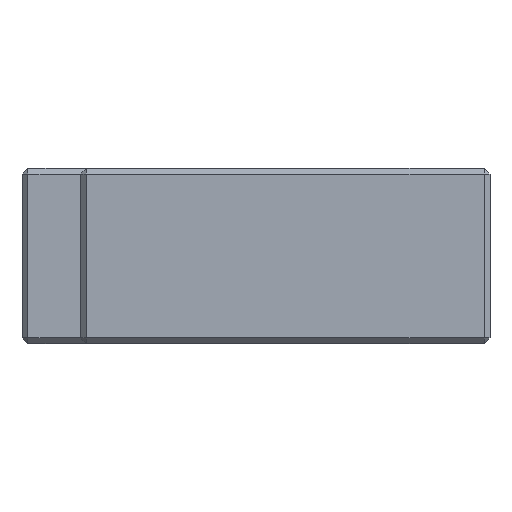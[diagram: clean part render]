
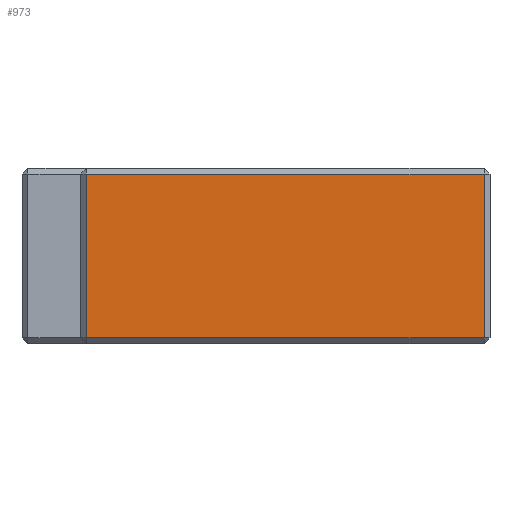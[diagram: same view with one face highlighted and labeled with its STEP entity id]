
A CAD part, left-side view. The second image highlights one B-rep face of the part: STEP entity #973.
In plain terms, the highlighted planar face has unit normal (-1, 0, 0).
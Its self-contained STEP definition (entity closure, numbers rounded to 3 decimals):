
#484 = VERTEX_POINT ( 'NONE', #2898 ) ;
#565 = LINE ( 'NONE', #931, #2678 ) ;
#574 = ORIENTED_EDGE ( 'NONE', *, *, #2172, .T. ) ;
#931 = CARTESIAN_POINT ( 'NONE',  ( -53., 70., -14. ) ) ;
#973 = ADVANCED_FACE ( 'NONE', ( #3635 ), #4647, .F. ) ;
#997 = VECTOR ( 'NONE', #3102, 1000. ) ;
#1090 = DIRECTION ( 'NONE',  ( 0., -1., 0. ) ) ;
#1488 = EDGE_CURVE ( 'NONE', #3256, #2776, #4812, .T. ) ;
#1550 = VECTOR ( 'NONE', #2869, 1000. ) ;
#1640 = CARTESIAN_POINT ( 'NONE',  ( -53., 69., 14. ) ) ;
#1742 = DIRECTION ( 'NONE',  ( 0., 0., -1. ) ) ;
#1813 = CARTESIAN_POINT ( 'NONE',  ( -53., 69., 15. ) ) ;
#1973 = LINE ( 'NONE', #2880, #1550 ) ;
#2063 = LINE ( 'NONE', #1813, #4695 ) ;
#2172 = EDGE_CURVE ( 'NONE', #484, #3256, #565, .T. ) ;
#2194 = EDGE_LOOP ( 'NONE', ( #574, #2796, #3726, #4606 ) ) ;
#2678 = VECTOR ( 'NONE', #1090, 1000. ) ;
#2753 = CARTESIAN_POINT ( 'NONE',  ( -53., 1., 14. ) ) ;
#2776 = VERTEX_POINT ( 'NONE', #2753 ) ;
#2796 = ORIENTED_EDGE ( 'NONE', *, *, #1488, .T. ) ;
#2869 = DIRECTION ( 'NONE',  ( 0., 1., 0. ) ) ;
#2880 = CARTESIAN_POINT ( 'NONE',  ( -53., 70., 14. ) ) ;
#2898 = CARTESIAN_POINT ( 'NONE',  ( -53., 69., -14. ) ) ;
#2919 = EDGE_CURVE ( 'NONE', #2931, #484, #2063, .T. ) ;
#2931 = VERTEX_POINT ( 'NONE', #1640 ) ;
#3097 = CARTESIAN_POINT ( 'NONE',  ( -53., 1., 15. ) ) ;
#3102 = DIRECTION ( 'NONE',  ( 0., 0., 1. ) ) ;
#3256 = VERTEX_POINT ( 'NONE', #4452 ) ;
#3635 = FACE_OUTER_BOUND ( 'NONE', #2194, .T. ) ;
#3726 = ORIENTED_EDGE ( 'NONE', *, *, #3978, .T. ) ;
#3787 = AXIS2_PLACEMENT_3D ( 'NONE', #4637, #4690, #4705 ) ;
#3978 = EDGE_CURVE ( 'NONE', #2776, #2931, #1973, .T. ) ;
#4452 = CARTESIAN_POINT ( 'NONE',  ( -53., 1., -14. ) ) ;
#4606 = ORIENTED_EDGE ( 'NONE', *, *, #2919, .T. ) ;
#4637 = CARTESIAN_POINT ( 'NONE',  ( -53., 70., 15. ) ) ;
#4647 = PLANE ( 'NONE',  #3787 ) ;
#4690 = DIRECTION ( 'NONE',  ( 1., 0., 0. ) ) ;
#4695 = VECTOR ( 'NONE', #1742, 1000. ) ;
#4705 = DIRECTION ( 'NONE',  ( 0., 1., 0. ) ) ;
#4812 = LINE ( 'NONE', #3097, #997 ) ;
